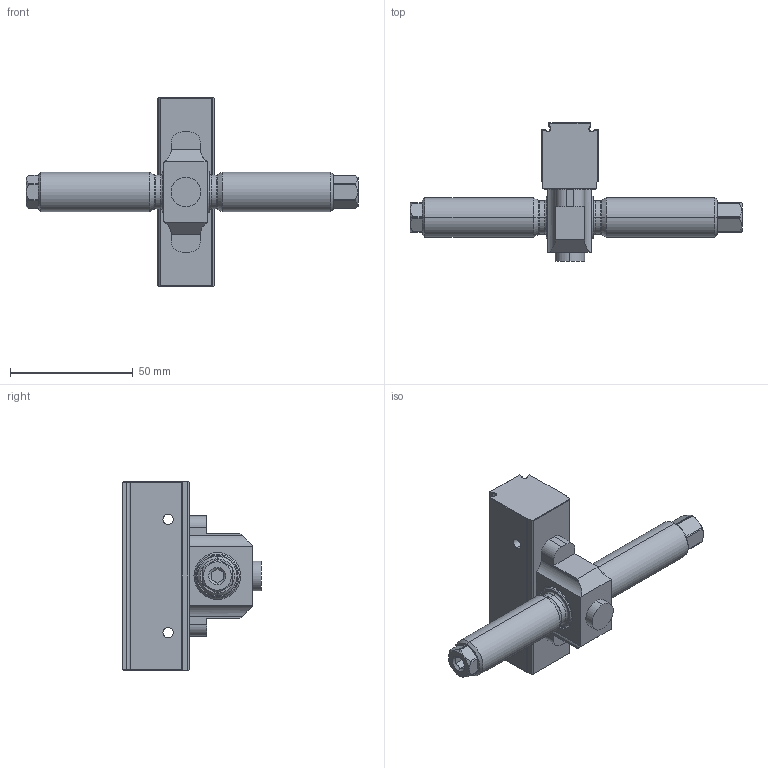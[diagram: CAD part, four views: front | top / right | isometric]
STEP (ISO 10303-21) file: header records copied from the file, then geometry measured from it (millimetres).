
FILE_DESCRIPTION (( 'STEP AP214' ), '1' );
FILE_NAME ('47120-TG17.STEP', '2023-02-10T12:51:19', ( '' ), ( '' ), 'SwSTEP 2.0', 'SolidWorks 2021', '' );
FILE_SCHEMA (( 'AUTOMOTIVE_DESIGN' ));
Length unit declared in the file: millimetre
Products named in the file (1): 47120-TG17
Bounding box: 135 x 56.4 x 76.6 mm (x, y, z)
Volume: 82509.3 mm3; surface area: 20157.9 mm2
Topology: 2 solids, 2 shells, 165 faces, 404 edges, 251 vertices
Faces by surface type: plane 80, cylinder 47, cone 30, torus 8
Entity records: 6903 total; most frequent: CARTESIAN_POINT 1117, DIRECTION 835, ORIENTED_EDGE 808, EDGE_CURVE 404, AXIS2_PLACEMENT_3D 301, VERTEX_POINT 251, VECTOR 233, LINE 233
